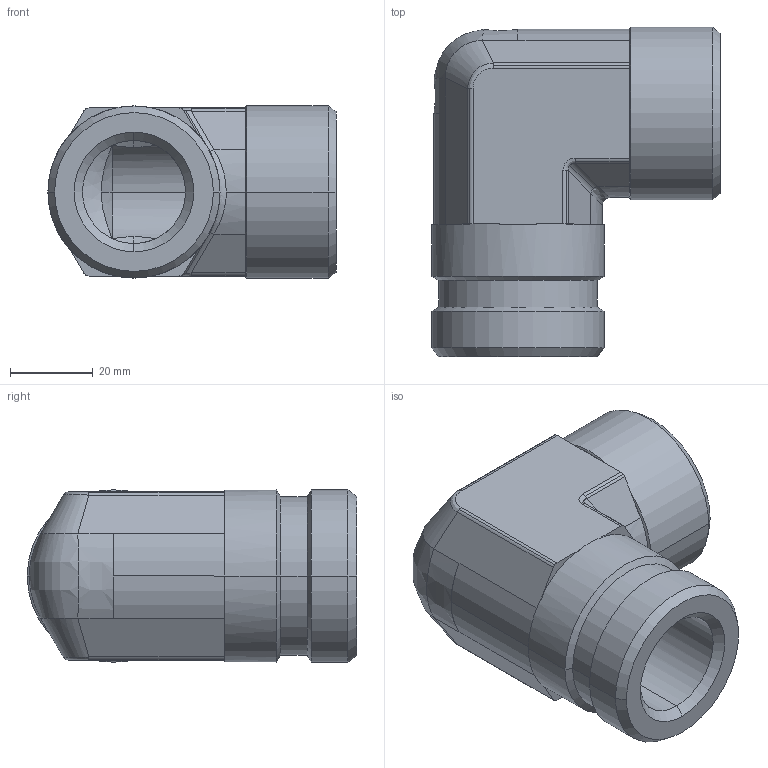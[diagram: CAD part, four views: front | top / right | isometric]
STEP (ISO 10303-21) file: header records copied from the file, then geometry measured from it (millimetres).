
FILE_DESCRIPTION((''),'2;1');
FILE_NAME('106122.stp','2007-10-31T14:48:58',(''),(''),'AutoCAD STEP 2000i','AutoCAD 2000i',', , ');
FILE_SCHEMA(('CONFIG_CONTROL_DESIGN'));
Length unit declared in the file: millimetre
Products named in the file (2): 106122.0; 3090#0
Assembly tree (1 placements, depth 2):
  106122.0
    3090#0
Bounding box: 69.86 x 79.91 x 41.82 mm (x, y, z)
Volume: 90168.3 mm3; surface area: 24527.2 mm2
Topology: 1 solids, 1 shells, 112 faces, 259 edges, 150 vertices
Faces by surface type: cylinder 48, plane 29, cone 23, bspline 12
Entity records: 4057 total; most frequent: CARTESIAN_POINT 1400, DIRECTION 570, ORIENTED_EDGE 518, EDGE_CURVE 259, AXIS2_PLACEMENT_3D 230, VERTEX_POINT 150, EDGE_LOOP 115, FACE_OUTER_BOUND 112
